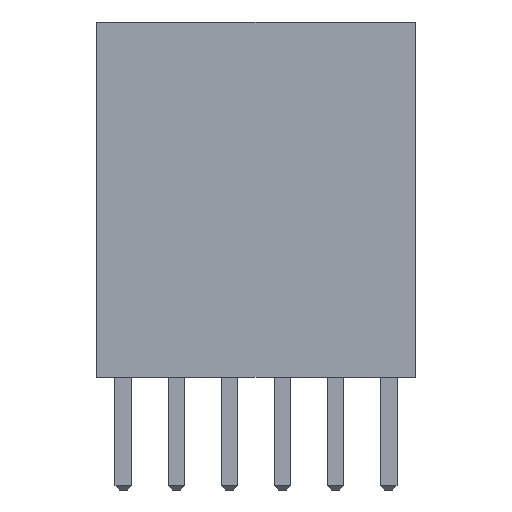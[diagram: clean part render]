
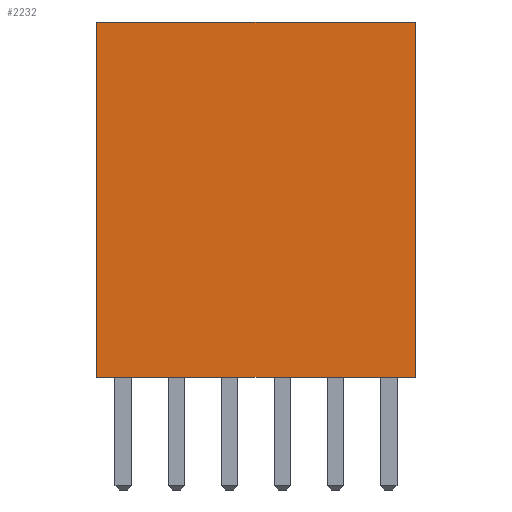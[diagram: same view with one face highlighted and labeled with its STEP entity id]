
A CAD part, front view. The second image highlights one B-rep face of the part: STEP entity #2232.
In plain terms, the highlighted free-form (B-spline) face has degree [1, 1] with [2, 2] control points.
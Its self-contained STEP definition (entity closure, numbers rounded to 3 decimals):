
#23 = ORIENTED_EDGE ( 'NONE', *, *, #1804, .F. ) ;
#125 = CARTESIAN_POINT ( 'NONE',  ( 41.38, 54., 8.6 ) ) ;
#180 = CARTESIAN_POINT ( 'NONE',  ( 41.189, 54., 17.313 ) ) ;
#231 = VERTEX_POINT ( 'NONE', #365 ) ;
#277 = ORIENTED_EDGE ( 'NONE', *, *, #1841, .T. ) ;
#348 = CARTESIAN_POINT ( 'NONE',  ( 49., 54., 17.1 ) ) ;
#349 = VECTOR ( 'NONE', #1324, 1000. ) ;
#365 = CARTESIAN_POINT ( 'NONE',  ( 49., 54., 8.6 ) ) ;
#413 = CARTESIAN_POINT ( 'NONE',  ( 49.191, 54., 17.313 ) ) ;
#659 = VERTEX_POINT ( 'NONE', #1110 ) ;
#667 = EDGE_CURVE ( 'NONE', #1720, #3020, #2776, .T. ) ;
#690 = DIRECTION ( 'NONE',  ( 0., 0., 1. ) ) ;
#1110 = CARTESIAN_POINT ( 'NONE',  ( 49., 54., 17.1 ) ) ;
#1130 = CARTESIAN_POINT ( 'NONE',  ( 41.189, 54., 8.387 ) ) ;
#1144 = LINE ( 'NONE', #1887, #1304 ) ;
#1189 = VECTOR ( 'NONE', #2306, 1000. ) ;
#1304 = VECTOR ( 'NONE', #690, 1000. ) ;
#1324 = DIRECTION ( 'NONE',  ( -1., 0., 0. ) ) ;
#1534 = LINE ( 'NONE', #348, #349 ) ;
#1720 = VERTEX_POINT ( 'NONE', #125 ) ;
#1736 = ORIENTED_EDGE ( 'NONE', *, *, #667, .F. ) ;
#1804 = EDGE_CURVE ( 'NONE', #231, #1720, #2081, .T. ) ;
#1840 = DIRECTION ( 'NONE',  ( -1., 0., 0. ) ) ;
#1841 = EDGE_CURVE ( 'NONE', #231, #659, #1144, .T. ) ;
#1887 = CARTESIAN_POINT ( 'NONE',  ( 49., 54., 8.6 ) ) ;
#2081 = LINE ( 'NONE', #2828, #2835 ) ;
#2232 = ADVANCED_FACE ( 'NONE', ( #2540 ), #2458, .T. ) ;
#2237 = ORIENTED_EDGE ( 'NONE', *, *, #2424, .T. ) ;
#2295 = CARTESIAN_POINT ( 'NONE',  ( 41.38, 54., 8.6 ) ) ;
#2303 = EDGE_LOOP ( 'NONE', ( #23, #277, #2237, #1736 ) ) ;
#2306 = DIRECTION ( 'NONE',  ( 0., 0., 1. ) ) ;
#2325 = CARTESIAN_POINT ( 'NONE',  ( 49.191, 54., 8.387 ) ) ;
#2424 = EDGE_CURVE ( 'NONE', #659, #3020, #1534, .T. ) ;
#2435 = CARTESIAN_POINT ( 'NONE',  ( 41.38, 54., 17.1 ) ) ;
#2458 = B_SPLINE_SURFACE_WITH_KNOTS ( 'NONE', 1, 1, ( 
 ( #413, #2325 ),
 ( #180, #1130 ) ),
 .UNSPECIFIED., .F., .F., .F.,
 ( 2, 2 ),
 ( 2, 2 ),
 ( 0., 1. ),
 ( 0., 1. ),
 .UNSPECIFIED. ) ;
#2540 = FACE_OUTER_BOUND ( 'NONE', #2303, .T. ) ;
#2776 = LINE ( 'NONE', #2295, #1189 ) ;
#2828 = CARTESIAN_POINT ( 'NONE',  ( 49., 54., 8.6 ) ) ;
#2835 = VECTOR ( 'NONE', #1840, 1000. ) ;
#3020 = VERTEX_POINT ( 'NONE', #2435 ) ;
